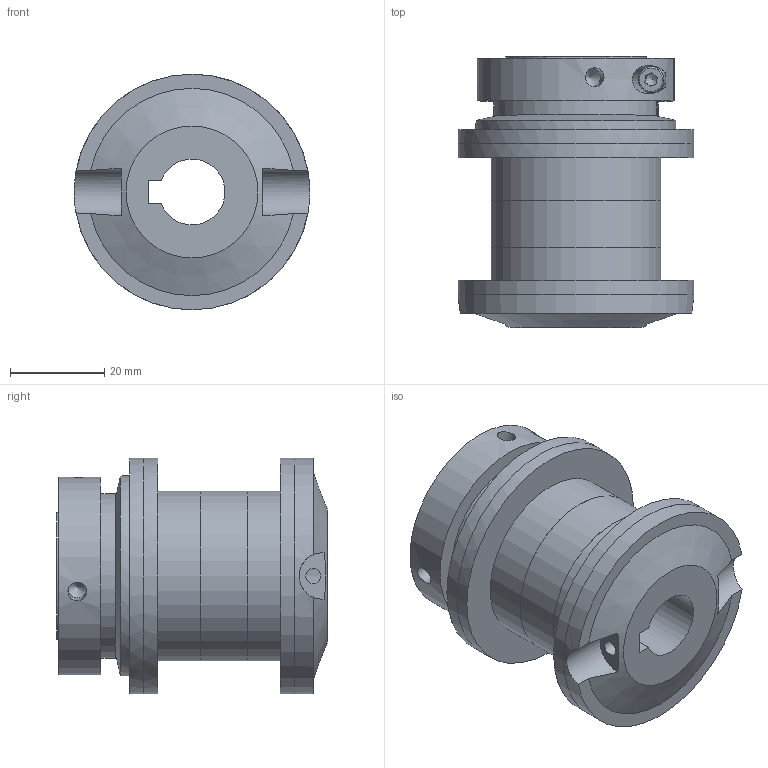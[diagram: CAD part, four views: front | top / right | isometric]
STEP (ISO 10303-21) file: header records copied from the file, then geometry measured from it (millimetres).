
FILE_DESCRIPTION( ( 'Unknown' ), '1' );
FILE_NAME( 'R:/utp/progettazione/3 D/DF/COMPLESSIVI/DF-ML/0-50 DF-ML GR.stp', 'Unknown', ( 'Unknown' ), ( 'Unknown' ), 'PSStep 10.1', 'Unknown', ' ' );
FILE_SCHEMA( ( 'AUTOMOTIVE_DESIGN { 1 0 10303 214 1 1 1 1 }' ) );
Length unit declared in the file: millimetre
Products named in the file (1): 1
Bounding box: 50 x 57.5 x 50 mm (x, y, z)
Volume: 61888.3 mm3; surface area: 23779.6 mm2
Topology: 1 solids, 1 shells, 105 faces, 304 edges, 197 vertices
Faces by surface type: plane 50, cylinder 43, cone 10, torus 2
Full cylindrical faces by diameter (mm): 2.459 x1, 3 x1, 3.242 x1, 3.5 x1, 4 x5, 5.5 x1, 31.5 x1, 36 x4, 42.5 x1, 49.99 x2, 50 x2
Entity records: 4800 total; most frequent: CARTESIAN_POINT 1003, DIRECTION 520, ORIENTED_EDGE 482, EDGE_CURVE 241, PRESENTATION_STYLE_ASSIGNMENT 211, COLOUR_RGB 211, AXIS2_PLACEMENT_3D 200, VERTEX_POINT 172
